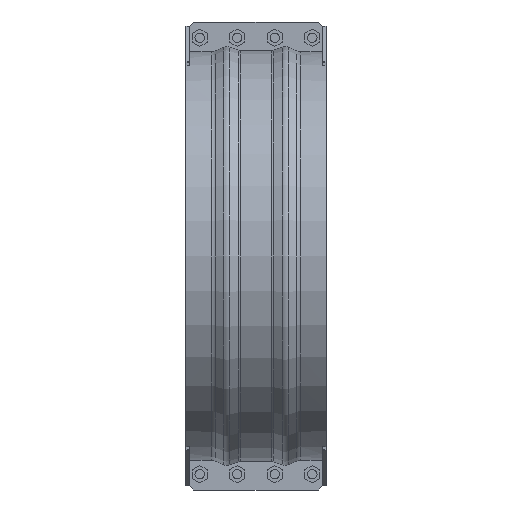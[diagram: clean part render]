
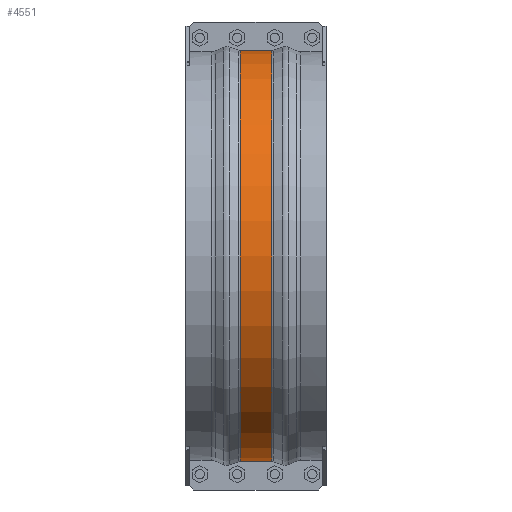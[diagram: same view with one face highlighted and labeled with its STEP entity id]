
A CAD part, front view. The second image highlights one B-rep face of the part: STEP entity #4551.
In plain terms, the highlighted cylindrical face has radius 549.577 mm (diameter 1099.15 mm), a partial arc.
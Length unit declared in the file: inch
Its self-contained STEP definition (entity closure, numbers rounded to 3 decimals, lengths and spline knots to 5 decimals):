
#422=FACE_OUTER_BOUND('',#679,.T.);
#679=EDGE_LOOP('',(#3457,#3458,#3459,#3460));
#1041=LINE('',#7007,#1482);
#1046=LINE('',#7145,#1487);
#1482=VECTOR('',#5619,0.3937);
#1487=VECTOR('',#5676,0.3937);
#1763=CIRCLE('',#4867,21.63689);
#1765=CIRCLE('',#4871,21.63689);
#2052=VERTEX_POINT('',#6999);
#2053=VERTEX_POINT('',#7006);
#2068=VERTEX_POINT('',#7130);
#2070=VERTEX_POINT('',#7143);
#2557=EDGE_CURVE('',#2053,#2052,#1041,.T.);
#2582=EDGE_CURVE('',#2068,#2053,#1763,.T.);
#2586=EDGE_CURVE('',#2070,#2052,#1765,.T.);
#2587=EDGE_CURVE('',#2070,#2068,#1046,.T.);
#3457=ORIENTED_EDGE('',*,*,#2557,.T.);
#3458=ORIENTED_EDGE('',*,*,#2586,.F.);
#3459=ORIENTED_EDGE('',*,*,#2587,.T.);
#3460=ORIENTED_EDGE('',*,*,#2582,.T.);
#4174=CYLINDRICAL_SURFACE('',#4870,21.63689);
#4551=ADVANCED_FACE('',(#422),#4174,.T.);
#4867=AXIS2_PLACEMENT_3D('',#7131,#5665,#5666);
#4870=AXIS2_PLACEMENT_3D('',#7142,#5672,#5673);
#4871=AXIS2_PLACEMENT_3D('',#7144,#5674,#5675);
#5619=DIRECTION('',(1.,0.,0.));
#5665=DIRECTION('center_axis',(1.,0.,0.));
#5666=DIRECTION('ref_axis',(0.,0.,-1.));
#5672=DIRECTION('center_axis',(1.,0.,0.));
#5673=DIRECTION('ref_axis',(0.,-1.,0.));
#5674=DIRECTION('center_axis',(1.,0.,0.));
#5675=DIRECTION('ref_axis',(0.,0.,-1.));
#5676=DIRECTION('',(-1.,0.,0.));
#6999=CARTESIAN_POINT('',(1.64101,-0.375,-21.63364));
#7006=CARTESIAN_POINT('',(-1.64101,-0.375,-21.63364));
#7007=CARTESIAN_POINT('',(0.,-0.375,-21.63364));
#7130=CARTESIAN_POINT('',(-1.64101,-0.375,21.63364));
#7131=CARTESIAN_POINT('Origin',(-1.64101,0.,0.));
#7142=CARTESIAN_POINT('Origin',(0.,0.,0.));
#7143=CARTESIAN_POINT('',(1.64101,-0.375,21.63364));
#7144=CARTESIAN_POINT('Origin',(1.64101,0.,0.));
#7145=CARTESIAN_POINT('',(0.,-0.375,21.63364));
